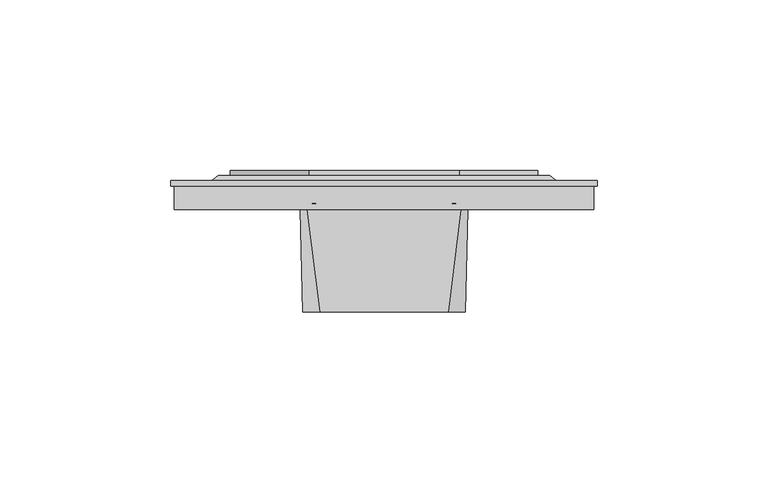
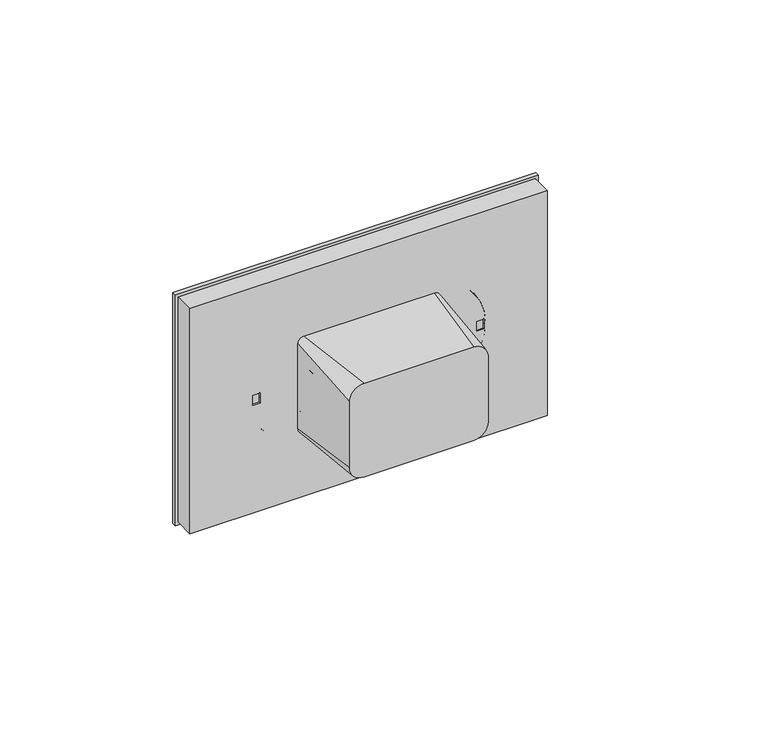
"""IFC4 building model written with IfcOpenShell, lengths in millimetres: proxy geometry, IEK_Brite_Розетка_2гн : 230 В _РС12-2-БрА."""

from ifc_helpers import new_model, si_unit, point, frame, frame_2d, origin, place, context, project, spatial, polyline, circle_curve, ellipse_curve, trimmed, segment, composite_curve, outline, extrude, source, transform, mapped, element, save
from ifc_brep_helpers import plane_surface, cylinder_surface, revolved_surface, spline_surface, advanced_brep


def electrical_fixtures_021acf54(model_context):
    return source(origin(), model_context, "Body", "SolidModel", [
        advanced_brep(
        [(20.5, 0.0, -6.3904783), (20.5, 0.0, -11.8753617), (20.5, 0.5, -11.8753617), (20.5, 0.5, -6.3904783), (20.5, 0.0, 3.0105286), (20.5, 0.0, -3.0105286), (20.5, 0.5, -3.0105286), (20.5, 0.5, 3.0105286), (20.5, 0.0, 11.8753617), (20.5, 0.0, 6.3904783), (20.5, 0.5, 6.3904783), (20.5, 0.5, 11.8753617), (39.8280847, 0.0, -1.7917908), (39.8280847, 0.0, 0.0), (39.8280847, 0.5, 0.0), (39.8280847, 0.5, -1.7917908), (39.8280847, 0.0, 1.7917908), (39.8280847, 0.5, 1.7917908), (37.3280847, 0.0, 1.7917908), (37.3280847, 0.5, 1.7917908), (37.3280847, 0.0, 0.0), (37.3280847, 0.5, 0.0), (37.3280847, 0.0, -1.7917908), (37.3280847, 0.5, -1.7917908), (1.1719153, 0.0, -1.7917908), (3.6719153, 0.0, -1.7917908), (3.6719153, 0.5, -1.7917908), (1.1719153, 0.5, -1.7917908), (3.6719153, 0.0, 0.0), (3.6719153, 0.5, 0.0), (3.6719153, 0.0, 1.7917908), (3.6719153, 0.5, 1.7917908), (1.1719153, 0.0, 1.7917908), (1.1719153, 0.5, 1.7917908), (1.1719153, 0.0, 0.0), (1.1719153, 0.5, 0.0), (-20.5, 0.0, -6.3904783), (-20.5, 0.0, -11.8753617), (-20.5, 0.5, -11.8753617), (-20.5, 0.5, -6.3904783), (-20.5, 0.0, 3.0105286), (-20.5, 0.0, -3.0105286), (-20.5, 0.5, -3.0105286), (-20.5, 0.5, 3.0105286), (-20.5, 0.0, 11.8753617), (-20.5, 0.0, 6.3904783), (-20.5, 0.5, 6.3904783), (-20.5, 0.5, 11.8753617), (-39.8280847, 0.0, -1.7917908), (-37.3280847, 0.0, -1.7917908), (-37.3280847, 0.5, -1.7917908), (-39.8280847, 0.5, -1.7917908), (-37.3280847, 0.0, 0.0), (-37.3280847, 0.5, 0.0), (-37.3280847, 0.0, 1.7917908), (-37.3280847, 0.5, 1.7917908), (-39.8280847, 0.0, 1.7917908), (-39.8280847, 0.5, 1.7917908), (-39.8280847, 0.0, 0.0), (-39.8280847, 0.5, 0.0), (-1.1719153, 0.0, -1.7917908), (-1.1719153, 0.0, 0.0), (-1.1719153, 0.5, 0.0), (-1.1719153, 0.5, -1.7917908), (-1.1719153, 0.0, 1.7917908), (-1.1719153, 0.5, 1.7917908), (-3.6719153, 0.0, 1.7917908), (-3.6719153, 0.5, 1.7917908), (-3.6719153, 0.0, 0.0), (-3.6719153, 0.5, 0.0), (-3.6719153, 0.0, -1.7917908), (-3.6719153, 0.5, -1.7917908), (-48.5, 10.0, 28.0), (48.5, 10.0, 28.0), (48.5, 10.0, -28.0), (-48.5, 10.0, -28.0), (-0.5, 10.0, 0.0), (-40.5, 10.0, 0.0), (40.5, 10.0, 0.0), (0.5, 10.0, 0.0), (-50.5, 8.5, -30.0), (-50.5, 8.5, 30.0), (50.5, 8.5, -30.0), (50.5, 8.5, 30.0), (-0.5, 0.5, 0.0), (-40.5, 0.5, 0.0), (40.5, 0.5, 0.0), (0.5, 0.5, 0.0), (-62.5, 7.0, 42.0), (-62.5, 7.0, -42.0), (62.5, 7.0, -42.0), (62.5, 7.0, 42.0), (-61.5, 7.0, -41.0), (-61.5, 7.0, 41.0), (61.5, 7.0, 41.0), (61.5, 7.0, -41.0), (-62.5, 8.5, 42.0), (62.5, 8.5, 42.0), (62.5, 8.5, -42.0), (-62.5, 8.5, -42.0), (-61.5, 0.0, 41.0), (-61.5, 0.0, -41.0), (61.5, 0.0, -41.0), (61.5, 0.0, 41.0)],
        [
            (0, 1, circle_curve(frame((20.5, 0.0, -9.13292), z_axis=(0.0, -1.0, 0.0), x_axis=(0.0, 0.0, -1.0)), 2.7424417)),
            (1, 2),
            (2, 3, circle_curve(frame((20.5, 0.5, -9.13292), z_axis=(0.0, 1.0, 0.0), x_axis=(0.0, 0.0, -1.0)), 2.7424417)),
            (3, 0),
            (1, 0, circle_curve(frame((20.5, 0.0, -9.13292), z_axis=(0.0, -1.0, 0.0), x_axis=(0.0, 0.0, -1.0)), 2.7424417)),
            (3, 2, circle_curve(frame((20.5, 0.5, -9.13292), z_axis=(0.0, 1.0, 0.0), x_axis=(0.0, 0.0, -1.0)), 2.7424417)),
            (4, 5, circle_curve(frame((20.5, 0.0, 0.0), z_axis=(0.0, -1.0, 0.0), x_axis=(0.0, 0.0, -1.0)), 3.0105286)),
            (5, 6),
            (6, 7, circle_curve(frame((20.5, 0.5, 0.0), z_axis=(0.0, 1.0, 0.0), x_axis=(0.0, 0.0, -1.0)), 3.0105286)),
            (7, 4),
            (5, 4, circle_curve(frame((20.5, 0.0, 0.0), z_axis=(0.0, -1.0, 0.0), x_axis=(0.0, 0.0, -1.0)), 3.0105286)),
            (7, 6, circle_curve(frame((20.5, 0.5, 0.0), z_axis=(0.0, 1.0, 0.0), x_axis=(0.0, 0.0, -1.0)), 3.0105286)),
            (8, 9, circle_curve(frame((20.5, 0.0, 9.13292), z_axis=(0.0, -1.0, 0.0), x_axis=(0.0, 0.0, -1.0)), 2.7424417)),
            (9, 10),
            (10, 11, circle_curve(frame((20.5, 0.5, 9.13292), z_axis=(0.0, 1.0, 0.0), x_axis=(0.0, 0.0, -1.0)), 2.7424417)),
            (11, 8),
            (9, 8, circle_curve(frame((20.5, 0.0, 9.13292), z_axis=(0.0, -1.0, 0.0), x_axis=(0.0, 0.0, -1.0)), 2.7424417)),
            (11, 10, circle_curve(frame((20.5, 0.5, 9.13292), z_axis=(0.0, 1.0, 0.0), x_axis=(0.0, 0.0, -1.0)), 2.7424417)),
            (12, 13),
            (13, 14),
            (14, 15),
            (15, 12),
            (13, 16),
            (16, 17),
            (17, 14),
            (16, 18),
            (18, 19),
            (19, 17),
            (18, 20),
            (20, 21),
            (21, 19),
            (20, 22),
            (22, 23),
            (23, 21),
            (22, 12),
            (15, 23),
            (24, 25),
            (25, 26),
            (26, 27),
            (27, 24),
            (25, 28),
            (28, 29),
            (29, 26),
            (28, 30),
            (30, 31),
            (31, 29),
            (30, 32),
            (32, 33),
            (33, 31),
            (32, 34),
            (34, 35),
            (35, 33),
            (34, 24),
            (27, 35),
            (36, 37, circle_curve(frame((-20.5, 0.0, -9.13292), z_axis=(0.0, -1.0, 0.0), x_axis=(0.0, 0.0, -1.0)), 2.7424417)),
            (37, 38),
            (38, 39, circle_curve(frame((-20.5, 0.5, -9.13292), z_axis=(0.0, 1.0, 0.0), x_axis=(0.0, 0.0, -1.0)), 2.7424417)),
            (39, 36),
            (37, 36, circle_curve(frame((-20.5, 0.0, -9.13292), z_axis=(0.0, -1.0, 0.0), x_axis=(0.0, 0.0, -1.0)), 2.7424417)),
            (39, 38, circle_curve(frame((-20.5, 0.5, -9.13292), z_axis=(0.0, 1.0, 0.0), x_axis=(0.0, 0.0, -1.0)), 2.7424417)),
            (40, 41, circle_curve(frame((-20.5, 0.0, 0.0), z_axis=(0.0, -1.0, 0.0), x_axis=(0.0, 0.0, -1.0)), 3.0105286)),
            (41, 42),
            (42, 43, circle_curve(frame((-20.5, 0.5, 0.0), z_axis=(0.0, 1.0, 0.0), x_axis=(0.0, 0.0, -1.0)), 3.0105286)),
            (43, 40),
            (41, 40, circle_curve(frame((-20.5, 0.0, 0.0), z_axis=(0.0, -1.0, 0.0), x_axis=(0.0, 0.0, -1.0)), 3.0105286)),
            (43, 42, circle_curve(frame((-20.5, 0.5, 0.0), z_axis=(0.0, 1.0, 0.0), x_axis=(0.0, 0.0, -1.0)), 3.0105286)),
            (44, 45, circle_curve(frame((-20.5, 0.0, 9.13292), z_axis=(0.0, -1.0, 0.0), x_axis=(0.0, 0.0, -1.0)), 2.7424417)),
            (45, 46),
            (46, 47, circle_curve(frame((-20.5, 0.5, 9.13292), z_axis=(0.0, 1.0, 0.0), x_axis=(0.0, 0.0, -1.0)), 2.7424417)),
            (47, 44),
            (45, 44, circle_curve(frame((-20.5, 0.0, 9.13292), z_axis=(0.0, -1.0, 0.0), x_axis=(0.0, 0.0, -1.0)), 2.7424417)),
            (47, 46, circle_curve(frame((-20.5, 0.5, 9.13292), z_axis=(0.0, 1.0, 0.0), x_axis=(0.0, 0.0, -1.0)), 2.7424417)),
            (48, 49),
            (49, 50),
            (50, 51),
            (51, 48),
            (49, 52),
            (52, 53),
            (53, 50),
            (52, 54),
            (54, 55),
            (55, 53),
            (54, 56),
            (56, 57),
            (57, 55),
            (56, 58),
            (58, 59),
            (59, 57),
            (58, 48),
            (51, 59),
            (60, 61),
            (61, 62),
            (62, 63),
            (63, 60),
            (61, 64),
            (64, 65),
            (65, 62),
            (64, 66),
            (66, 67),
            (67, 65),
            (66, 68),
            (68, 69),
            (69, 67),
            (68, 70),
            (70, 71),
            (71, 69),
            (70, 60),
            (63, 71),
            (72, 73),
            (73, 74),
            (74, 75),
            (75, 72),
            (76, 77, circle_curve(frame((-20.5, 10.0, 0.0), z_axis=(0.0, -1.0, 0.0), x_axis=(-1.0, 0.0, 0.0)), 20.0)),
            (77, 76, circle_curve(frame((-20.5, 10.0, 0.0), z_axis=(0.0, -1.0, 0.0), x_axis=(-1.0, 0.0, 0.0)), 20.0)),
            (78, 79, circle_curve(frame((20.5, 10.0, 0.0), z_axis=(0.0, -1.0, 0.0), x_axis=(-1.0, 0.0, 0.0)), 20.0)),
            (79, 78, circle_curve(frame((20.5, 10.0, 0.0), z_axis=(0.0, -1.0, 0.0), x_axis=(-1.0, 0.0, 0.0)), 20.0)),
            (75, 80),
            (80, 81),
            (81, 72),
            (74, 82),
            (82, 80),
            (73, 83),
            (83, 82),
            (81, 83),
            (84, 85, circle_curve(frame((-20.5, 0.5, 0.0), z_axis=(0.0, 1.0, 0.0), x_axis=(-1.0, 0.0, 0.0)), 20.0)),
            (85, 84, circle_curve(frame((-20.5, 0.5, 0.0), z_axis=(0.0, 1.0, 0.0), x_axis=(-1.0, 0.0, 0.0)), 20.0)),
            (86, 87, circle_curve(frame((20.5, 0.5, 0.0), z_axis=(0.0, 1.0, 0.0), x_axis=(-1.0, 0.0, 0.0)), 20.0)),
            (87, 86, circle_curve(frame((20.5, 0.5, 0.0), z_axis=(0.0, 1.0, 0.0), x_axis=(-1.0, 0.0, 0.0)), 20.0)),
            (85, 77),
            (76, 84),
            (87, 79),
            (78, 86),
            (88, 89),
            (89, 90),
            (90, 91),
            (91, 88),
            (92, 93),
            (93, 94),
            (94, 95),
            (95, 92),
            (96, 97),
            (97, 98),
            (98, 99),
            (99, 96),
            (91, 97),
            (96, 88),
            (90, 98),
            (89, 99),
            (100, 101),
            (101, 102),
            (102, 103),
            (103, 100),
            (100, 93),
            (92, 101),
            (95, 102),
            (94, 103),
        ],
        [
            revolved_surface(polyline([(20.5, 0.0, -11.875361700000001), (20.5, 0.5, -11.875361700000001)]), (20.5, 1.0, -9.13292), (0.0, -1.0, 0.0)),
            revolved_surface(polyline([(20.5, 0.0, -3.0105286), (20.5, 0.5, -3.0105286)]), (20.5, -2.0, 0.0), (0.0, -1.0, 0.0)),
            revolved_surface(polyline([(20.5, 0.0, 6.3904783), (20.5, 0.5, 6.3904783)]), (20.5, -2.0, 9.13292), (0.0, -1.0, 0.0)),
            plane_surface(frame((39.8280847, -13.4962918, -1.7917908), z_axis=(-1.0, 0.0, 0.0), x_axis=(0.0, 1.0, 0.0))),
            plane_surface(frame((39.8280847, -13.4962918, 0.0), z_axis=(-1.0, 0.0, 0.0), x_axis=(0.0, 1.0, 0.0))),
            plane_surface(frame((39.8280847, -13.4962918, 1.7917908), z_axis=(0.0, 0.0, -1.0), x_axis=(0.0, 1.0, 0.0))),
            plane_surface(frame((37.3280847, -13.4962918, 1.7917908), z_axis=(1.0, 0.0, 0.0), x_axis=(0.0, 1.0, 0.0))),
            plane_surface(frame((37.3280847, -13.4962918, 0.0), z_axis=(1.0, 0.0, 0.0), x_axis=(0.0, 1.0, 0.0))),
            plane_surface(frame((37.3280847, -13.4962918, -1.7917908), z_axis=(0.0, 0.0, 1.0), x_axis=(0.0, 1.0, 0.0))),
            plane_surface(frame((1.1719153, -13.4962918, -1.7917908), z_axis=(0.0, 0.0, 1.0), x_axis=(0.0, 1.0, 0.0))),
            plane_surface(frame((3.6719153, -13.4962918, -1.7917908), z_axis=(-1.0, 0.0, 0.0), x_axis=(0.0, 1.0, 0.0))),
            plane_surface(frame((3.6719153, -13.4962918, 0.0), z_axis=(-1.0, 0.0, 0.0), x_axis=(0.0, 1.0, 0.0))),
            plane_surface(frame((3.6719153, -13.4962918, 1.7917908), z_axis=(0.0, 0.0, -1.0), x_axis=(0.0, 1.0, 0.0))),
            plane_surface(frame((1.1719153, -13.4962918, 1.7917908), z_axis=(1.0, 0.0, 0.0), x_axis=(0.0, 1.0, 0.0))),
            plane_surface(frame((1.1719153, -13.4962918, 0.0), z_axis=(1.0, 0.0, 0.0), x_axis=(0.0, 1.0, 0.0))),
            revolved_surface(polyline([(-20.5, 0.0, -11.875361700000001), (-20.5, 0.5, -11.875361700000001)]), (-20.5, -2.0, -9.13292), (0.0, -1.0, 0.0)),
            revolved_surface(polyline([(-20.5, 0.0, -3.0105286), (-20.5, 0.5, -3.0105286)]), (-20.5, -2.0, 0.0), (0.0, -1.0, 0.0)),
            revolved_surface(polyline([(-20.5, 0.0, 6.3904783), (-20.5, 0.5, 6.3904783)]), (-20.5, -2.0, 9.13292), (0.0, -1.0, 0.0)),
            plane_surface(frame((-39.8280847, -13.4962918, -1.7917908), z_axis=(0.0, 0.0, 1.0), x_axis=(0.0, 1.0, 0.0))),
            plane_surface(frame((-37.3280847, -13.4962918, -1.7917908), z_axis=(-1.0, 0.0, 0.0), x_axis=(0.0, 1.0, 0.0))),
            plane_surface(frame((-37.3280847, -13.4962918, 0.0), z_axis=(-1.0, 0.0, 0.0), x_axis=(0.0, 1.0, 0.0))),
            plane_surface(frame((-37.3280847, -13.4962918, 1.7917908), z_axis=(0.0, 0.0, -1.0), x_axis=(0.0, 1.0, 0.0))),
            plane_surface(frame((-39.8280847, -13.4962918, 1.7917908), z_axis=(1.0, 0.0, 0.0), x_axis=(0.0, 1.0, 0.0))),
            plane_surface(frame((-39.8280847, -13.4962918, 0.0), z_axis=(1.0, 0.0, 0.0), x_axis=(0.0, 1.0, 0.0))),
            plane_surface(frame((-1.1719153, -13.4962918, -1.7917908), z_axis=(-1.0, 0.0, 0.0), x_axis=(0.0, 1.0, 0.0))),
            plane_surface(frame((-1.1719153, -13.4962918, 0.0), z_axis=(-1.0, 0.0, 0.0), x_axis=(0.0, 1.0, 0.0))),
            plane_surface(frame((-1.1719153, -13.4962918, 1.7917908), z_axis=(0.0, 0.0, -1.0), x_axis=(0.0, 1.0, 0.0))),
            plane_surface(frame((-3.6719153, -13.4962918, 1.7917908), z_axis=(1.0, 0.0, 0.0), x_axis=(0.0, 1.0, 0.0))),
            plane_surface(frame((-3.6719153, -13.4962918, 0.0), z_axis=(1.0, 0.0, 0.0), x_axis=(0.0, 1.0, 0.0))),
            plane_surface(frame((-3.6719153, -13.4962918, -1.7917908), z_axis=(0.0, 0.0, 1.0), x_axis=(0.0, 1.0, 0.0))),
            plane_surface(frame((0.0, 10.0, 0.0), z_axis=(0.0, 1.0, 0.0), x_axis=(1.0, 0.0, 0.0))),
            plane_surface(frame((-48.5, 10.0, 0.0), z_axis=(-0.5999999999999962, 0.8000000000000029, 0.0), x_axis=(0.0, 0.0, -1.0))),
            plane_surface(frame((0.0, 10.0, -28.0), z_axis=(0.0, 0.7999999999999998, -0.6000000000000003), x_axis=(1.0, 0.0, 0.0))),
            plane_surface(frame((48.5, 10.0, 0.0), z_axis=(0.6000000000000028, 0.7999999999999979, 0.0), x_axis=(0.0, 0.0, 1.0))),
            plane_surface(frame((0.0, 10.0, 28.0), z_axis=(0.0, 0.7999999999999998, 0.6000000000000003), x_axis=(-1.0, 0.0, 0.0))),
            plane_surface(frame((-40.5, 0.5, 0.0), z_axis=(0.0, 1.0, 0.0), x_axis=(0.0, 0.0, -1.0))),
            revolved_surface(polyline([(-40.5, 10.0, 0.0), (-40.5, 0.5, 0.0)]), (-20.5, 0.5, 0.0), (0.0, 1.0, 0.0)),
            revolved_surface(polyline([(0.5, 10.0, 0.0), (0.5, 0.5, 0.0)]), (20.5, 0.0, 0.0), (0.0, 1.0, 0.0)),
            plane_surface(frame((62.5, 7.0, 42.0), z_axis=(0.0, -1.0, 0.0), x_axis=(-1.0, 0.0, 0.0))),
            plane_surface(frame((62.5, 8.5, 42.0), z_axis=(0.0, 1.0, 0.0), x_axis=(1.0, 0.0, 0.0))),
            plane_surface(frame((-62.5, 8.5, 42.0), z_axis=(0.0, 0.0, 1.0), x_axis=(0.0, -1.0, 0.0))),
            plane_surface(frame((62.5, 8.5, 42.0), z_axis=(1.0, 0.0, 0.0), x_axis=(0.0, -1.0, 0.0))),
            plane_surface(frame((62.5, 8.5, -42.0), z_axis=(0.0, 0.0, -1.0), x_axis=(0.0, -1.0, 0.0))),
            plane_surface(frame((-62.5, 8.5, -42.0), z_axis=(-1.0, 0.0, 0.0), x_axis=(0.0, -1.0, 0.0))),
            plane_surface(frame((-61.5, 0.0, 41.0), z_axis=(0.0, -1.0, 0.0), x_axis=(0.0, 0.0, -1.0))),
            plane_surface(frame((-61.5, 0.0, 41.0), z_axis=(-1.0, 0.0, 0.0), x_axis=(0.0, 1.0, 0.0))),
            plane_surface(frame((-61.5, 0.0, -41.0), z_axis=(0.0, 0.0, -1.0), x_axis=(0.0, 1.0, 0.0))),
            plane_surface(frame((61.5, 0.0, -41.0), z_axis=(1.0, 0.0, 0.0), x_axis=(0.0, 1.0, 0.0))),
            plane_surface(frame((61.5, 0.0, 41.0), z_axis=(0.0, 0.0, 1.0), x_axis=(0.0, 1.0, 0.0))),
        ],
        [
            (0, [[1, 2, 3, 4]]),
            (0, [[5, -4, 6, -2]]),
            (1, [[7, 8, 9, 10]]),
            (1, [[11, -10, 12, -8]]),
            (2, [[13, 14, 15, 16]]),
            (2, [[17, -16, 18, -14]]),
            (3, [[19, 20, 21, 22]]),
            (4, [[23, 24, 25, -20]]),
            (5, [[26, 27, 28, -24]]),
            (6, [[29, 30, 31, -27]]),
            (7, [[32, 33, 34, -30]]),
            (8, [[35, -22, 36, -33]]),
            (9, [[37, 38, 39, 40]]),
            (10, [[41, 42, 43, -38]]),
            (11, [[44, 45, 46, -42]]),
            (12, [[47, 48, 49, -45]]),
            (13, [[50, 51, 52, -48]]),
            (14, [[53, -40, 54, -51]]),
            (15, [[55, 56, 57, 58]]),
            (15, [[59, -58, 60, -56]]),
            (16, [[61, 62, 63, 64]]),
            (16, [[65, -64, 66, -62]]),
            (17, [[67, 68, 69, 70]]),
            (17, [[71, -70, 72, -68]]),
            (18, [[73, 74, 75, 76]]),
            (19, [[77, 78, 79, -74]]),
            (20, [[80, 81, 82, -78]]),
            (21, [[83, 84, 85, -81]]),
            (22, [[86, 87, 88, -84]]),
            (23, [[89, -76, 90, -87]]),
            (24, [[91, 92, 93, 94]]),
            (25, [[95, 96, 97, -92]]),
            (26, [[98, 99, 100, -96]]),
            (27, [[101, 102, 103, -99]]),
            (28, [[104, 105, 106, -102]]),
            (29, [[107, -94, 108, -105]]),
            (30, [[109, 110, 111, 112], [113, 114], [115, 116]]),
            (31, [[-112, 117, 118, 119]]),
            (32, [[-111, 120, 121, -117]]),
            (33, [[-110, 122, 123, -120]]),
            (34, [[-109, -119, 124, -122]]),
            (35, [[125, 126], [-57, -60], [-63, -66], [-69, -72], [-75, -79, -82, -85, -88, -90], [-93, -97, -100, -103, -106, -108]]),
            (35, [[127, 128], [-3, -6], [-9, -12], [-15, -18], [-21, -25, -28, -31, -34, -36], [-39, -43, -46, -49, -52, -54]]),
            (36, [[-126, 129, -113, 130]]),
            (36, [[-125, -130, -114, -129]]),
            (37, [[-128, 131, -115, 132]]),
            (37, [[-127, -132, -116, -131]]),
            (38, [[133, 134, 135, 136], [137, 138, 139, 140]]),
            (39, [[141, 142, 143, 144], [-118, -121, -123, -124]]),
            (40, [[-136, 145, -141, 146]]),
            (41, [[-135, 147, -142, -145]]),
            (42, [[-134, 148, -143, -147]]),
            (43, [[-133, -146, -144, -148]]),
            (44, [[149, 150, 151, 152], [-1, -5], [-7, -11], [-13, -17], [-19, -35, -32, -29, -26, -23], [-37, -53, -50, -47, -44, -41], [-55, -59], [-61, -65], [-67, -71], [-73, -89, -86, -83, -80, -77], [-91, -107, -104, -101, -98, -95]]),
            (45, [[-149, 153, -137, 154]]),
            (46, [[-150, -154, -140, 155]]),
            (47, [[-151, -155, -139, 156]]),
            (48, [[-152, -156, -138, -153]]),
        ],
    ),
        extrude(outline(composite_curve([segment(trimmed(circle_curve(frame_2d((0.0, 22.0)), 23.0), [point((-23.0, 22.0))], [point((23.0, 22.0))], False, "CARTESIAN"), True, "CONTINUOUS"), segment(polyline([(23.0, 22.0), (23.0, -22.0)]), True, "CONTINUOUS"), segment(trimmed(circle_curve(frame_2d((0.0, -22.0)), 23.0), [point((23.0, -22.0))], [point((-23.0, -22.0))], False, "CARTESIAN"), True, "CONTINUOUS"), segment(polyline([(-23.0, -22.0), (-23.0, 22.0)]), True, "CONTINUOUS")], self_intersect=False), holes=[composite_curve([segment(trimmed(circle_curve(frame_2d((0.0, 20.5)), 20.0), [point((0.0, 40.5))], [point((0.0, 0.5))], True, "CARTESIAN"), True, "CONTINUOUS"), segment(trimmed(circle_curve(frame_2d((0.0, 20.5)), 20.0), [point((0.0, 0.5))], [point((0.0, 40.5))], True, "CARTESIAN"), True, "CONTINUOUS")], self_intersect=False), composite_curve([segment(trimmed(circle_curve(frame_2d((0.0, -20.5)), 20.0), [point((0.0, -0.5))], [point((0.0, -40.5))], True, "CARTESIAN"), True, "CONTINUOUS"), segment(trimmed(circle_curve(frame_2d((0.0, -20.5)), 20.0), [point((0.0, -40.5))], [point((0.0, -0.5))], True, "CARTESIAN"), True, "CONTINUOUS")], self_intersect=False)]), frame((0.0, 10.0, 0.0), z_axis=(0.0, 1.0, 0.0), x_axis=(0.0, 0.0, 1.0)), (0.0, 0.0, 1.0), 1.5),
        advanced_brep(
        [(-20.5, 1.8805573, 0.0), (-17.6013083, 1.0937742, 0.0), (-23.3986917, 1.0937742, 0.0), (-17.6013083, -0.6843508, 0.0), (-23.3986917, -0.6843508, 0.0), (-20.5, -0.6843508, 0.0)],
        [
            (0, 1, ellipse_curve(frame((-20.34375, 1.0937742, 0.0), z_axis=(0.0, 0.0, -1.0), x_axis=(1.0, 0.0, 0.0)), 2.7424417, 0.7880633)),
            (1, 2, circle_curve(frame((-20.5, 1.0937742, 0.0), z_axis=(0.0, 1.0, 0.0), x_axis=(1.0, 0.0, 0.0)), 2.8986917)),
            (2, 0, ellipse_curve(frame((-20.65625, 1.0937742, 0.0), z_axis=(0.0, 0.0, -1.0), x_axis=(-1.0, 0.0, 0.0)), 2.7424417, 0.7880633)),
            (2, 1, circle_curve(frame((-20.5, 1.0937742, 0.0), z_axis=(0.0, 1.0, 0.0), x_axis=(1.0, 0.0, 0.0)), 2.8986917)),
            (1, 3),
            (3, 4, circle_curve(frame((-20.5, -0.6843508, 0.0), z_axis=(0.0, 1.0, 0.0), x_axis=(1.0, 0.0, 0.0)), 2.8986917)),
            (4, 2),
            (4, 3, circle_curve(frame((-20.5, -0.6843508, 0.0), z_axis=(0.0, 1.0, 0.0), x_axis=(1.0, 0.0, 0.0)), 2.8986917)),
            (3, 5),
            (5, 4),
        ],
        [
            revolved_surface(trimmed(ellipse_curve(frame((-20.34375, 1.0937742, 0.0), z_axis=(0.0, 0.0, 1.0), x_axis=(1.0, 0.0, 0.0)), 2.7424417, 0.7880633), [point((-17.6013083, 1.0937742, 0.0))], [point((-20.5, 1.8805573, 0.0))], True, "CARTESIAN"), (-20.5, -2.0071642, 0.0), (0.0, 1.0, 0.0)),
            cylinder_surface(frame((-20.5, -2.0071642, 0.0), z_axis=(0.0, 1.0, 0.0), x_axis=(1.0, 0.0, 0.0)), 2.8986917),
            plane_surface(frame((-20.5, -0.6843508, 0.0), z_axis=(0.0, -1.0, 0.0), x_axis=(1.0, 0.0, 0.0))),
        ],
        [
            (0, [[1, 2, 3]]),
            (0, [[-3, 4, -1]]),
            (1, [[-2, 5, 6, 7]]),
            (1, [[-4, -7, 8, -5]]),
            (2, [[-6, 9, 10]]),
            (2, [[-8, -10, -9]]),
        ],
    ),
        advanced_brep(
        [(20.5, 1.8805573, 0.0), (23.3986917, 1.0937742, 0.0), (17.6013083, 1.0937742, 0.0), (23.3986917, -0.6843508, 0.0), (17.6013083, -0.6843508, 0.0), (20.5, -0.6843508, 0.0)],
        [
            (0, 1, ellipse_curve(frame((20.65625, 1.0937742, 0.0), z_axis=(0.0, 0.0, -1.0), x_axis=(1.0, 0.0, 0.0)), 2.7424417, 0.7880633)),
            (1, 2, circle_curve(frame((20.5, 1.0937742, 0.0), z_axis=(0.0, 1.0, 0.0), x_axis=(1.0, 0.0, 0.0)), 2.8986917)),
            (2, 0, ellipse_curve(frame((20.34375, 1.0937742, 0.0), z_axis=(0.0, 0.0, -1.0), x_axis=(-1.0, 0.0, 0.0)), 2.7424417, 0.7880633)),
            (2, 1, circle_curve(frame((20.5, 1.0937742, 0.0), z_axis=(0.0, 1.0, 0.0), x_axis=(1.0, 0.0, 0.0)), 2.8986917)),
            (1, 3),
            (3, 4, circle_curve(frame((20.5, -0.6843508, 0.0), z_axis=(0.0, 1.0, 0.0), x_axis=(1.0, 0.0, 0.0)), 2.8986917)),
            (4, 2),
            (4, 3, circle_curve(frame((20.5, -0.6843508, 0.0), z_axis=(0.0, 1.0, 0.0), x_axis=(1.0, 0.0, 0.0)), 2.8986917)),
            (3, 5),
            (5, 4),
        ],
        [
            revolved_surface(trimmed(ellipse_curve(frame((20.65625, 1.0937742, 0.0), z_axis=(0.0, 0.0, 1.0), x_axis=(1.0, 0.0, 0.0)), 2.7424417, 0.7880633), [point((23.3986917, 1.0937742, 0.0))], [point((20.5, 1.8805573, 0.0))], True, "CARTESIAN"), (20.5, -2.0071642, 0.0), (0.0, 1.0, 0.0)),
            cylinder_surface(frame((20.5, -2.0071642, 0.0), z_axis=(0.0, 1.0, 0.0), x_axis=(1.0, 0.0, 0.0)), 2.8986917),
            plane_surface(frame((20.5, -0.6843508, 0.0), z_axis=(0.0, -1.0, 0.0), x_axis=(1.0, 0.0, 0.0))),
        ],
        [
            (0, [[1, 2, 3]]),
            (0, [[-3, 4, -1]]),
            (1, [[-2, 5, 6, 7]]),
            (1, [[-4, -7, 8, -5]]),
            (2, [[-6, 9, 10]]),
            (2, [[-8, -10, -9]]),
        ],
    ),
        advanced_brep(
        [(20.5, -13.4962918, -6.3904783), (20.5, -13.4962918, -11.8753617), (20.5, -13.4962918, 3.0105286), (20.5, -13.4962918, -3.0105286), (20.5, -13.4962918, 11.8753617), (20.5, -13.4962918, 6.3904783), (1.1719153, -13.4962918, -1.7917908), (1.1719153, -13.4962918, 0.0), (1.1719153, -13.4962918, 1.7917908), (3.6719153, -13.4962918, 1.7917908), (3.6719153, -13.4962918, 0.0), (3.6719153, -13.4962918, -1.7917908), (-20.5, -13.4962918, -6.3904783), (-20.5, -13.4962918, -11.8753617), (-20.5, -13.4962918, 3.0105286), (-20.5, -13.4962918, -3.0105286), (-20.5, -13.4962918, 11.8753617), (-20.5, -13.4962918, 6.3904783), (-1.1719153, -13.4962918, -1.7917908), (-3.6719153, -13.4962918, -1.7917908), (-3.6719153, -13.4962918, 0.0), (-3.6719153, -13.4962918, 1.7917908), (-1.1719153, -13.4962918, 1.7917908), (-1.1719153, -13.4962918, 0.0), (20.5, 0.0, -11.8753617), (20.5, 0.0, -6.3904783), (20.5, 0.0, -3.0105286), (20.5, 0.0, 3.0105286), (20.5, 0.0, 6.3904783), (20.5, 0.0, 11.8753617), (3.6719153, 0.0, -1.7917908), (1.1719153, 0.0, -1.7917908), (3.6719153, 0.0, 0.0), (3.6719153, 0.0, 1.7917908), (1.1719153, 0.0, 1.7917908), (1.1719153, 0.0, 0.0), (-20.5, 0.0, -11.8753617), (-20.5, 0.0, -6.3904783), (-20.5, 0.0, -3.0105286), (-20.5, 0.0, 3.0105286), (-20.5, 0.0, 6.3904783), (-20.5, 0.0, 11.8753617), (-1.1719153, 0.0, 0.0), (-1.1719153, 0.0, -1.7917908), (-1.1719153, 0.0, 1.7917908), (-3.6719153, 0.0, 1.7917908), (-3.6719153, 0.0, 0.0), (-3.6719153, 0.0, -1.7917908), (18.8462421, -30.0, -17.0), (23.8462421, -30.0, -12.0), (23.8462421, -30.0, 12.0), (18.8462421, -30.0, 17.0), (-18.8537225, -30.0, 17.0), (-23.8537225, -30.0, 12.0), (-23.8537225, -30.0, -12.0), (-18.8537225, -30.0, -17.0), (22.5422228, 0.0, -17.5), (-22.5960064, 0.0, -17.5), (-24.5960064, 0.0, -15.5), (-24.5960064, 0.0, 15.5), (-22.5960064, 0.0, 17.5), (22.5422228, 0.0, 17.5), (24.5422228, 0.0, 15.5), (24.5422228, 0.0, -15.5)],
        [
            (0, 1, circle_curve(frame((20.5, -13.4962918, -9.13292), z_axis=(0.0, 1.0, 0.0), x_axis=(0.0, 0.0, -1.0)), 2.7424417)),
            (1, 0, circle_curve(frame((20.5, -13.4962918, -9.13292), z_axis=(0.0, 1.0, 0.0), x_axis=(0.0, 0.0, -1.0)), 2.7424417)),
            (2, 3, circle_curve(frame((20.5, -13.4962918, 0.0), z_axis=(0.0, 1.0, 0.0), x_axis=(0.0, 0.0, -1.0)), 3.0105286)),
            (3, 2, circle_curve(frame((20.5, -13.4962918, 0.0), z_axis=(0.0, 1.0, 0.0), x_axis=(0.0, 0.0, -1.0)), 3.0105286)),
            (4, 5, circle_curve(frame((20.5, -13.4962918, 9.13292), z_axis=(0.0, 1.0, 0.0), x_axis=(0.0, 0.0, -1.0)), 2.7424417)),
            (5, 4, circle_curve(frame((20.5, -13.4962918, 9.13292), z_axis=(0.0, 1.0, 0.0), x_axis=(0.0, 0.0, -1.0)), 2.7424417)),
            (6, 7),
            (7, 8),
            (8, 9),
            (9, 10),
            (10, 11),
            (11, 6),
            (12, 13, circle_curve(frame((-20.5, -13.4962918, -9.13292), z_axis=(0.0, 1.0, 0.0), x_axis=(0.0, 0.0, -1.0)), 2.7424417)),
            (13, 12, circle_curve(frame((-20.5, -13.4962918, -9.13292), z_axis=(0.0, 1.0, 0.0), x_axis=(0.0, 0.0, -1.0)), 2.7424417)),
            (14, 15, circle_curve(frame((-20.5, -13.4962918, 0.0), z_axis=(0.0, 1.0, 0.0), x_axis=(0.0, 0.0, -1.0)), 3.0105286)),
            (15, 14, circle_curve(frame((-20.5, -13.4962918, 0.0), z_axis=(0.0, 1.0, 0.0), x_axis=(0.0, 0.0, -1.0)), 3.0105286)),
            (16, 17, circle_curve(frame((-20.5, -13.4962918, 9.13292), z_axis=(0.0, 1.0, 0.0), x_axis=(0.0, 0.0, -1.0)), 2.7424417)),
            (17, 16, circle_curve(frame((-20.5, -13.4962918, 9.13292), z_axis=(0.0, 1.0, 0.0), x_axis=(0.0, 0.0, -1.0)), 2.7424417)),
            (18, 19),
            (19, 20),
            (20, 21),
            (21, 22),
            (22, 23),
            (23, 18),
            (1, 24),
            (24, 25, circle_curve(frame((20.5, 0.0, -9.13292), z_axis=(0.0, 1.0, 0.0), x_axis=(0.0, 0.0, -1.0)), 2.7424417)),
            (25, 0),
            (25, 24, circle_curve(frame((20.5, 0.0, -9.13292), z_axis=(0.0, 1.0, 0.0), x_axis=(0.0, 0.0, -1.0)), 2.7424417)),
            (3, 26),
            (26, 27, circle_curve(frame((20.5, 0.0, 0.0), z_axis=(0.0, 1.0, 0.0), x_axis=(0.0, 0.0, -1.0)), 3.0105286)),
            (27, 2),
            (27, 26, circle_curve(frame((20.5, 0.0, 0.0), z_axis=(0.0, 1.0, 0.0), x_axis=(0.0, 0.0, -1.0)), 3.0105286)),
            (5, 28),
            (28, 29, circle_curve(frame((20.5, 0.0, 9.13292), z_axis=(0.0, 1.0, 0.0), x_axis=(0.0, 0.0, -1.0)), 2.7424417)),
            (29, 4),
            (29, 28, circle_curve(frame((20.5, 0.0, 9.13292), z_axis=(0.0, 1.0, 0.0), x_axis=(0.0, 0.0, -1.0)), 2.7424417)),
            (11, 30),
            (30, 31),
            (31, 6),
            (10, 32),
            (32, 30),
            (9, 33),
            (33, 32),
            (8, 34),
            (34, 33),
            (7, 35),
            (35, 34),
            (31, 35),
            (13, 36),
            (36, 37, circle_curve(frame((-20.5, 0.0, -9.13292), z_axis=(0.0, 1.0, 0.0), x_axis=(0.0, 0.0, -1.0)), 2.7424417)),
            (37, 12),
            (37, 36, circle_curve(frame((-20.5, 0.0, -9.13292), z_axis=(0.0, 1.0, 0.0), x_axis=(0.0, 0.0, -1.0)), 2.7424417)),
            (15, 38),
            (38, 39, circle_curve(frame((-20.5, 0.0, 0.0), z_axis=(0.0, 1.0, 0.0), x_axis=(0.0, 0.0, -1.0)), 3.0105286)),
            (39, 14),
            (39, 38, circle_curve(frame((-20.5, 0.0, 0.0), z_axis=(0.0, 1.0, 0.0), x_axis=(0.0, 0.0, -1.0)), 3.0105286)),
            (17, 40),
            (40, 41, circle_curve(frame((-20.5, 0.0, 9.13292), z_axis=(0.0, 1.0, 0.0), x_axis=(0.0, 0.0, -1.0)), 2.7424417)),
            (41, 16),
            (41, 40, circle_curve(frame((-20.5, 0.0, 9.13292), z_axis=(0.0, 1.0, 0.0), x_axis=(0.0, 0.0, -1.0)), 2.7424417)),
            (23, 42),
            (42, 43),
            (43, 18),
            (22, 44),
            (44, 42),
            (21, 45),
            (45, 44),
            (20, 46),
            (46, 45),
            (19, 47),
            (47, 46),
            (43, 47),
            (48, 49, circle_curve(frame((18.8462421, -30.0, -12.0), z_axis=(0.0, -1.0, 0.0), x_axis=(0.0, 0.0, -1.0)), 5.0)),
            (49, 50),
            (50, 51, circle_curve(frame((18.8462421, -30.0, 12.0), z_axis=(0.0, -1.0, 0.0), x_axis=(0.0, 0.0, -1.0)), 5.0)),
            (51, 52),
            (52, 53, circle_curve(frame((-18.8537225, -30.0, 12.0), z_axis=(0.0, -1.0, 0.0), x_axis=(0.0, 0.0, -1.0)), 5.0)),
            (53, 54),
            (54, 55, circle_curve(frame((-18.8537225, -30.0, -12.0), z_axis=(0.0, -1.0, 0.0), x_axis=(0.0, 0.0, -1.0)), 5.0)),
            (55, 48),
            (56, 57),
            (57, 58, circle_curve(frame((-22.5960064, 0.0, -15.5), z_axis=(0.0, 1.0, 0.0), x_axis=(0.0, 0.0, -1.0)), 2.0)),
            (58, 59),
            (59, 60, circle_curve(frame((-22.5960064, 0.0, 15.5), z_axis=(0.0, 1.0, 0.0), x_axis=(0.0, 0.0, -1.0)), 2.0)),
            (60, 61),
            (61, 62, circle_curve(frame((22.5422228, 0.0, 15.5), z_axis=(0.0, 1.0, 0.0), x_axis=(0.0, 0.0, -1.0)), 2.0)),
            (62, 63),
            (63, 56, circle_curve(frame((22.5422228, 0.0, -15.5), z_axis=(0.0, 1.0, 0.0), x_axis=(0.0, 0.0, -1.0)), 2.0)),
            (55, 57),
            (56, 48),
            (54, 58),
            (53, 59),
            (52, 60),
            (51, 61),
            (63, 49),
            (62, 50),
        ],
        [
            plane_surface(frame((20.5, -13.4962918, -11.8753617), z_axis=(0.0, 1.0, 0.0), x_axis=(1.0, 0.0, 0.0))),
            revolved_surface(polyline([(20.5, -13.4962918, -11.875361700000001), (20.5, 0.0, -11.875361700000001)]), (20.5, 1.0, -9.13292), (0.0, -1.0, 0.0)),
            revolved_surface(polyline([(20.5, -13.4962918, -3.0105286), (20.5, 0.0, -3.0105286)]), (20.5, -2.0, 0.0), (0.0, -1.0, 0.0)),
            revolved_surface(polyline([(20.5, -13.4962918, 6.3904783), (20.5, 0.0, 6.3904783)]), (20.5, -2.0, 9.13292), (0.0, -1.0, 0.0)),
            plane_surface(frame((1.1719153, -13.4962918, -1.7917908), z_axis=(0.0, 0.0, 1.0), x_axis=(0.0, 1.0, 0.0))),
            plane_surface(frame((3.6719153, -13.4962918, -1.7917908), z_axis=(-1.0, 0.0, 0.0), x_axis=(0.0, 1.0, 0.0))),
            plane_surface(frame((3.6719153, -13.4962918, 0.0), z_axis=(-1.0, 0.0, 0.0), x_axis=(0.0, 1.0, 0.0))),
            plane_surface(frame((3.6719153, -13.4962918, 1.7917908), z_axis=(0.0, 0.0, -1.0), x_axis=(0.0, 1.0, 0.0))),
            plane_surface(frame((1.1719153, -13.4962918, 1.7917908), z_axis=(1.0, 0.0, 0.0), x_axis=(0.0, 1.0, 0.0))),
            plane_surface(frame((1.1719153, -13.4962918, 0.0), z_axis=(1.0, 0.0, 0.0), x_axis=(0.0, 1.0, 0.0))),
            revolved_surface(polyline([(-20.5, -13.4962918, -11.875361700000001), (-20.5, 0.0, -11.875361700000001)]), (-20.5, -2.0, -9.13292), (0.0, -1.0, 0.0)),
            revolved_surface(polyline([(-20.5, -13.4962918, -3.0105286), (-20.5, 0.0, -3.0105286)]), (-20.5, -2.0, 0.0), (0.0, -1.0, 0.0)),
            revolved_surface(polyline([(-20.5, -13.4962918, 6.3904783), (-20.5, 0.0, 6.3904783)]), (-20.5, -2.0, 9.13292), (0.0, -1.0, 0.0)),
            plane_surface(frame((-1.1719153, -13.4962918, -1.7917908), z_axis=(-1.0, 0.0, 0.0), x_axis=(0.0, 1.0, 0.0))),
            plane_surface(frame((-1.1719153, -13.4962918, 0.0), z_axis=(-1.0, 0.0, 0.0), x_axis=(0.0, 1.0, 0.0))),
            plane_surface(frame((-1.1719153, -13.4962918, 1.7917908), z_axis=(0.0, 0.0, -1.0), x_axis=(0.0, 1.0, 0.0))),
            plane_surface(frame((-3.6719153, -13.4962918, 1.7917908), z_axis=(1.0, 0.0, 0.0), x_axis=(0.0, 1.0, 0.0))),
            plane_surface(frame((-3.6719153, -13.4962918, 0.0), z_axis=(1.0, 0.0, 0.0), x_axis=(0.0, 1.0, 0.0))),
            plane_surface(frame((-3.6719153, -13.4962918, -1.7917908), z_axis=(0.0, 0.0, 1.0), x_axis=(0.0, 1.0, 0.0))),
            plane_surface(frame((-0.0037402, -30.0, 0.0), z_axis=(0.0, -1.0, 0.0), x_axis=(1.0, 0.0, 1.4992810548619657e-12))),
            plane_surface(frame((-0.0268918, 0.0, 0.0), z_axis=(0.0, 1.0, 0.0), x_axis=(1.0, 0.0, 1.4992810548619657e-12))),
            plane_surface(frame((-0.0268918, 0.0, -17.5), z_axis=(0.0, -0.016664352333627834, -0.9998611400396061), x_axis=(1.0, 0.0, 0.0))),
            spline_surface(2, 1, [[(-24.5960064, 0.0, -15.5), (-23.8537225, -30.0, -12.0)], [(-24.5960064, 0.0, -17.5), (-23.8537225, -30.0, -17.0)], [(-22.5960064, 0.0, -17.5), (-18.8537225, -30.0, -17.0)]], [3, 3], [2, 2], [0.0, 1.0], [0.0, 1.0], weights=[[1.0, 1.0], [0.7071067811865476, 0.7071067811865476], [1.0, 1.0]]),
            plane_surface(frame((-24.5960064, 0.0, 0.0), z_axis=(-0.9996940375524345, -0.02473522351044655, 0.0), x_axis=(0.0, 0.0, -1.0))),
            spline_surface(2, 1, [[(-22.5960064, 0.0, 17.5), (-18.8537225, -30.0, 17.0)], [(-24.5960064, 0.0, 17.5), (-23.8537225, -30.0, 17.0)], [(-24.5960064, 0.0, 15.5), (-23.8537225, -30.0, 12.0)]], [3, 3], [2, 2], [0.0, 1.0], [0.0, 1.0], weights=[[1.0, 1.0], [0.7071067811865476, 0.7071067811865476], [1.0, 1.0]]),
            plane_surface(frame((-0.0268918, 0.0, 17.5), z_axis=(0.0, -0.016664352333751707, 0.999861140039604), x_axis=(-1.0, 0.0, 0.0))),
            spline_surface(2, 1, [[(22.5422228, 0.0, -17.5), (18.8462421, -30.0, -17.0)], [(24.5422228, 0.0, -17.5), (23.8462421, -30.0, -17.0)], [(24.5422228, 0.0, -15.5), (23.8462421, -30.0, -12.0)]], [3, 3], [2, 2], [0.0, 1.0], [0.0, 1.0], weights=[[1.0, 1.0], [0.7071067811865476, 0.7071067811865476], [1.0, 1.0]]),
            plane_surface(frame((24.5422228, 0.0, 0.0), z_axis=(0.9997310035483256, -0.023193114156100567, 0.0), x_axis=(0.0, 0.0, 1.0))),
            spline_surface(2, 1, [[(24.5422228, 0.0, 15.5), (23.8462421, -30.0, 12.0)], [(24.5422228, 0.0, 17.5), (23.8462421, -30.0, 17.0)], [(22.5422228, 0.0, 17.5), (18.8462421, -30.0, 17.0)]], [3, 3], [2, 2], [0.0, 1.0], [0.0, 1.0], weights=[[1.0, 1.0], [0.7071067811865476, 0.7071067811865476], [1.0, 1.0]]),
        ],
        [
            (0, [[1, 2]]),
            (0, [[3, 4]]),
            (0, [[5, 6]]),
            (0, [[7, 8, 9, 10, 11, 12]]),
            (0, [[13, 14]]),
            (0, [[15, 16]]),
            (0, [[17, 18]]),
            (0, [[19, 20, 21, 22, 23, 24]]),
            (1, [[-2, 25, 26, 27]]),
            (1, [[-1, -27, 28, -25]]),
            (2, [[-4, 29, 30, 31]]),
            (2, [[-3, -31, 32, -29]]),
            (3, [[-6, 33, 34, 35]]),
            (3, [[-5, -35, 36, -33]]),
            (4, [[-12, 37, 38, 39]]),
            (5, [[-11, 40, 41, -37]]),
            (6, [[-10, 42, 43, -40]]),
            (7, [[-9, 44, 45, -42]]),
            (8, [[-8, 46, 47, -44]]),
            (9, [[-7, -39, 48, -46]]),
            (10, [[-14, 49, 50, 51]]),
            (10, [[-13, -51, 52, -49]]),
            (11, [[-16, 53, 54, 55]]),
            (11, [[-15, -55, 56, -53]]),
            (12, [[-18, 57, 58, 59]]),
            (12, [[-17, -59, 60, -57]]),
            (13, [[-24, 61, 62, 63]]),
            (14, [[-23, 64, 65, -61]]),
            (15, [[-22, 66, 67, -64]]),
            (16, [[-21, 68, 69, -66]]),
            (17, [[-20, 70, 71, -68]]),
            (18, [[-19, -63, 72, -70]]),
            (19, [[73, 74, 75, 76, 77, 78, 79, 80]]),
            (20, [[81, 82, 83, 84, 85, 86, 87, 88], [-26, -28], [-30, -32], [-34, -36], [-38, -41, -43, -45, -47, -48], [-50, -52], [-54, -56], [-58, -60], [-62, -65, -67, -69, -71, -72]]),
            (21, [[-80, 89, -81, 90]]),
            (22, [[-79, 91, -82, -89]]),
            (23, [[-78, 92, -83, -91]]),
            (24, [[-77, 93, -84, -92]]),
            (25, [[-76, 94, -85, -93]]),
            (26, [[-73, -90, -88, 95]]),
            (27, [[-74, -95, -87, 96]]),
            (28, [[-75, -96, -86, -94]]),
        ],
    ),
        extrude(outline(composite_curve([segment(trimmed(circle_curve(frame_2d((0.0, -20.5)), 20.0), [point((20.0, -20.5))], [point((-20.0, -20.5))], False, "CARTESIAN"), True, "CONTINUOUS"), segment(trimmed(circle_curve(frame_2d((0.0, -20.5)), 20.0), [point((-20.0, -20.5))], [point((20.0, -20.5))], False, "CARTESIAN"), True, "CONTINUOUS")], self_intersect=False), holes=[composite_curve([segment(trimmed(circle_curve(frame_2d((-9.13292, -20.5)), 2.7424417), [point((-6.3904783, -20.5))], [point((-11.8753617, -20.5))], True, "CARTESIAN"), True, "CONTINUOUS"), segment(trimmed(circle_curve(frame_2d((-9.13292, -20.5)), 2.7424417), [point((-11.8753617, -20.5))], [point((-6.3904783, -20.5))], True, "CARTESIAN"), True, "CONTINUOUS")], self_intersect=False), composite_curve([segment(trimmed(circle_curve(frame_2d((9.13292, -20.5)), 2.7424417), [point((11.8753617, -20.5))], [point((6.3904783, -20.5))], True, "CARTESIAN"), True, "CONTINUOUS"), segment(trimmed(circle_curve(frame_2d((9.13292, -20.5)), 2.7424417), [point((6.3904783, -20.5))], [point((11.8753617, -20.5))], True, "CARTESIAN"), True, "CONTINUOUS")], self_intersect=False), composite_curve([segment(trimmed(circle_curve(frame_2d((0.0, -20.5)), 3.0105286), [point((3.0105286, -20.5))], [point((-3.0105286, -20.5))], True, "CARTESIAN"), True, "CONTINUOUS"), segment(trimmed(circle_curve(frame_2d((0.0, -20.5)), 3.0105286), [point((-3.0105286, -20.5))], [point((3.0105286, -20.5))], True, "CARTESIAN"), True, "CONTINUOUS")], self_intersect=False)]), frame((0.0, 0.5, 0.0), z_axis=(0.0, 1.0, 0.0), x_axis=(0.0, 0.0, 1.0)), (0.0, 0.0, 1.0), 0.5),
        extrude(outline(composite_curve([segment(trimmed(circle_curve(frame_2d((0.0, 20.5)), 20.0), [point((20.0, 20.5))], [point((-20.0, 20.5))], False, "CARTESIAN"), True, "CONTINUOUS"), segment(trimmed(circle_curve(frame_2d((0.0, 20.5)), 20.0), [point((-20.0, 20.5))], [point((20.0, 20.5))], False, "CARTESIAN"), True, "CONTINUOUS")], self_intersect=False), holes=[composite_curve([segment(trimmed(circle_curve(frame_2d((-9.13292, 20.5)), 2.7424417), [point((-6.3904783, 20.5))], [point((-11.8753617, 20.5))], True, "CARTESIAN"), True, "CONTINUOUS"), segment(trimmed(circle_curve(frame_2d((-9.13292, 20.5)), 2.7424417), [point((-11.8753617, 20.5))], [point((-6.3904783, 20.5))], True, "CARTESIAN"), True, "CONTINUOUS")], self_intersect=False), composite_curve([segment(trimmed(circle_curve(frame_2d((9.13292, 20.5)), 2.7424417), [point((11.8753617, 20.5))], [point((6.3904783, 20.5))], True, "CARTESIAN"), True, "CONTINUOUS"), segment(trimmed(circle_curve(frame_2d((9.13292, 20.5)), 2.7424417), [point((6.3904783, 20.5))], [point((11.8753617, 20.5))], True, "CARTESIAN"), True, "CONTINUOUS")], self_intersect=False), composite_curve([segment(trimmed(circle_curve(frame_2d((0.0, 20.5)), 3.0105286), [point((3.0105286, 20.5))], [point((-3.0105286, 20.5))], True, "CARTESIAN"), True, "CONTINUOUS"), segment(trimmed(circle_curve(frame_2d((0.0, 20.5)), 3.0105286), [point((-3.0105286, 20.5))], [point((3.0105286, 20.5))], True, "CARTESIAN"), True, "CONTINUOUS")], self_intersect=False)]), frame((0.0, 0.5, 0.0), z_axis=(0.0, 1.0, 0.0), x_axis=(0.0, 0.0, 1.0)), (0.0, 0.0, 1.0), 0.5),
    ])


if __name__ == "__main__":
    model = new_model("IFC4")
    model_context = context("Model", 3, world=origin())
    ifc_project = project(units=[si_unit("LENGTHUNIT", "METRE", prefix="MILLI")], contexts=[model_context])
    site = spatial("IfcSite", under=ifc_project)
    building = spatial("IfcBuilding", under=site)
    placement = place(None, origin())
    electrical_fixtures_shape = electrical_fixtures_021acf54(model_context)
    element("IfcBuildingElementProxy", 1, Name="IEK_Brite_Розетка_2гн : 230 В _РС12-2-БрА", ObjectType="IEK_Brite_Розетка_2гн : 230 В _РС12-2-БрА", at=placement, inside=building, context=model_context, shape_type="MappedRepresentation", body=[
        mapped(electrical_fixtures_shape, transform((0.0, 0.0, 0.0), x_axis=(1.0, 0.0, 0.0), y_axis=(0.0, 1.0, 0.0), z_axis=(0.0, 0.0, 1.0))),
    ])
    save(model, "model.ifc")
